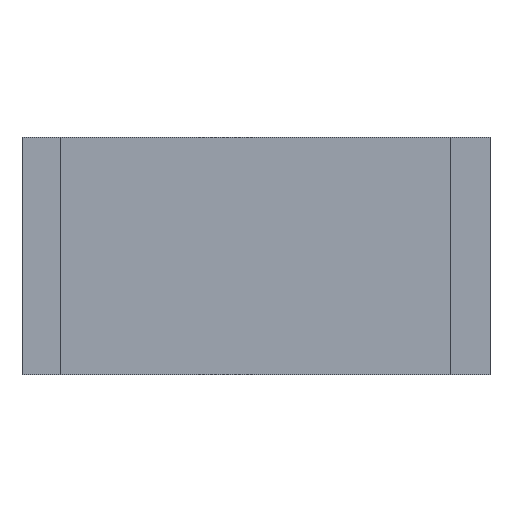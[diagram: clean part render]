
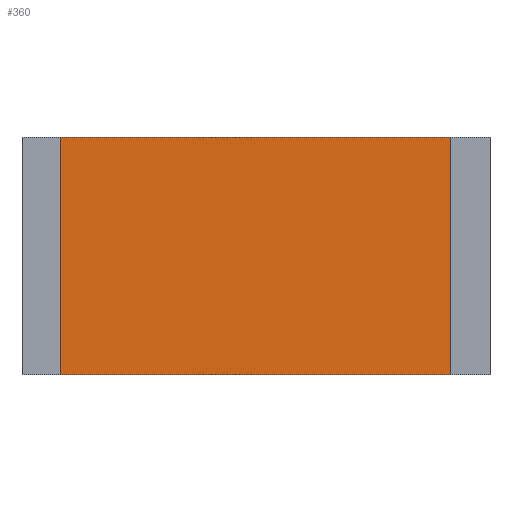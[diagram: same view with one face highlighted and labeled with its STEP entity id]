
A CAD part, top view. The second image highlights one B-rep face of the part: STEP entity #360.
In plain terms, the highlighted planar face has unit normal (0, 0, 1).
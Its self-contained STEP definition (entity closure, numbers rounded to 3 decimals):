
#360=ADVANCED_FACE('',(#759),#761,.T.);
#759=FACE_BOUND('',#760,.T.);
#760=EDGE_LOOP('',(#1046,#1047,#1048,#1049));
#761=PLANE('',#762);
#762=AXIS2_PLACEMENT_3D('',#763,#764,#765);
#763=CARTESIAN_POINT('',(0.,0.,0.52));
#764=DIRECTION('',(0.,0.,1.));
#765=DIRECTION('',(-1.,0.,0.));
#1046=ORIENTED_EDGE('',*,*,#1218,.T.);
#1047=ORIENTED_EDGE('',*,*,#1222,.T.);
#1048=ORIENTED_EDGE('',*,*,#1225,.T.);
#1049=ORIENTED_EDGE('',*,*,#1227,.T.);
#1218=EDGE_CURVE('',#1384,#1382,#1385,.T.);
#1222=EDGE_CURVE('',#1382,#1389,#1391,.T.);
#1225=EDGE_CURVE('',#1389,#1394,#1396,.T.);
#1227=EDGE_CURVE('',#1394,#1384,#1398,.T.);
#1382=VERTEX_POINT('',#1709);
#1384=VERTEX_POINT('',#1713);
#1385=LINE('',#1714,#1715);
#1389=VERTEX_POINT('',#1724);
#1391=LINE('',#1728,#1729);
#1394=VERTEX_POINT('',#1735);
#1396=LINE('',#1739,#1740);
#1398=LINE('',#1745,#1746);
#1709=CARTESIAN_POINT('',(-2.625,1.6,0.52));
#1713=CARTESIAN_POINT('',(2.625,1.6,0.52));
#1714=CARTESIAN_POINT('',(2.625,1.6,0.52));
#1715=VECTOR('',#1716,1.);
#1716=DIRECTION('',(-1.,0.,0.));
#1724=CARTESIAN_POINT('',(-2.625,-1.6,0.52));
#1728=CARTESIAN_POINT('',(-2.625,1.6,0.52));
#1729=VECTOR('',#1730,1.);
#1730=DIRECTION('',(0.,-1.,0.));
#1735=CARTESIAN_POINT('',(2.625,-1.6,0.52));
#1739=CARTESIAN_POINT('',(-2.625,-1.6,0.52));
#1740=VECTOR('',#1741,1.);
#1741=DIRECTION('',(1.,0.,0.));
#1745=CARTESIAN_POINT('',(2.625,-1.6,0.52));
#1746=VECTOR('',#1747,1.);
#1747=DIRECTION('',(0.,1.,0.));
